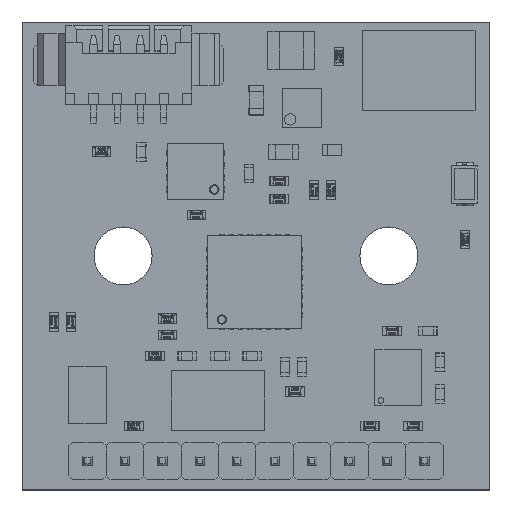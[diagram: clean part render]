
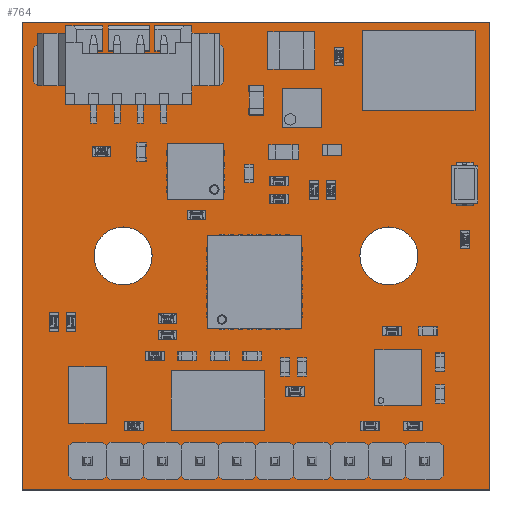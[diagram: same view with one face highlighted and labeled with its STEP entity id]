
A CAD part, top view. The second image highlights one B-rep face of the part: STEP entity #764.
In plain terms, the highlighted planar face has unit normal (0, 0, 1).
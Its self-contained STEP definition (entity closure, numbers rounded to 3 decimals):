
#203 = VERTEX_POINT('',#204);
#204 = CARTESIAN_POINT('',(0.,0.,0.));
#210 = EDGE_CURVE('',#203,#211,#213,.T.);
#211 = VERTEX_POINT('',#212);
#212 = CARTESIAN_POINT('',(25.,0.,0.));
#213 = LINE('',#214,#215);
#214 = CARTESIAN_POINT('',(0.,0.,0.));
#215 = VECTOR('',#216,1.);
#216 = DIRECTION('',(1.,0.,0.));
#241 = EDGE_CURVE('',#211,#242,#244,.T.);
#242 = VERTEX_POINT('',#243);
#243 = CARTESIAN_POINT('',(25.,25.,0.));
#244 = LINE('',#245,#246);
#245 = CARTESIAN_POINT('',(25.,0.,0.));
#246 = VECTOR('',#247,1.);
#247 = DIRECTION('',(0.,1.,0.));
#272 = EDGE_CURVE('',#242,#273,#275,.T.);
#273 = VERTEX_POINT('',#274);
#274 = CARTESIAN_POINT('',(0.,25.,0.));
#275 = LINE('',#276,#277);
#276 = CARTESIAN_POINT('',(25.,25.,0.));
#277 = VECTOR('',#278,1.);
#278 = DIRECTION('',(-1.,0.,0.));
#303 = EDGE_CURVE('',#273,#203,#304,.T.);
#304 = LINE('',#305,#306);
#305 = CARTESIAN_POINT('',(0.,25.,0.));
#306 = VECTOR('',#307,1.);
#307 = DIRECTION('',(0.,-1.,0.));
#327 = VERTEX_POINT('',#328);
#328 = CARTESIAN_POINT('',(3.95,1.55,0.));
#334 = EDGE_CURVE('',#327,#327,#335,.T.);
#335 = CIRCLE('',#336,0.45);
#336 = AXIS2_PLACEMENT_3D('',#337,#338,#339);
#337 = CARTESIAN_POINT('',(3.5,1.55,0.));
#338 = DIRECTION('',(0.,0.,1.));
#339 = DIRECTION('',(1.,0.,0.));
#360 = VERTEX_POINT('',#361);
#361 = CARTESIAN_POINT('',(7.95,1.55,0.));
#367 = EDGE_CURVE('',#360,#360,#368,.T.);
#368 = CIRCLE('',#369,0.45);
#369 = AXIS2_PLACEMENT_3D('',#370,#371,#372);
#370 = CARTESIAN_POINT('',(7.5,1.55,0.));
#371 = DIRECTION('',(0.,0.,1.));
#372 = DIRECTION('',(1.,0.,0.));
#393 = VERTEX_POINT('',#394);
#394 = CARTESIAN_POINT('',(5.95,1.55,0.));
#400 = EDGE_CURVE('',#393,#393,#401,.T.);
#401 = CIRCLE('',#402,0.45);
#402 = AXIS2_PLACEMENT_3D('',#403,#404,#405);
#403 = CARTESIAN_POINT('',(5.5,1.55,0.));
#404 = DIRECTION('',(0.,0.,1.));
#405 = DIRECTION('',(1.,0.,0.));
#426 = VERTEX_POINT('',#427);
#427 = CARTESIAN_POINT('',(6.95,12.5,0.));
#433 = EDGE_CURVE('',#426,#426,#434,.T.);
#434 = CIRCLE('',#435,1.55);
#435 = AXIS2_PLACEMENT_3D('',#436,#437,#438);
#436 = CARTESIAN_POINT('',(5.4,12.5,0.));
#437 = DIRECTION('',(0.,0.,1.));
#438 = DIRECTION('',(1.,0.,0.));
#459 = VERTEX_POINT('',#460);
#460 = CARTESIAN_POINT('',(11.95,1.55,0.));
#466 = EDGE_CURVE('',#459,#459,#467,.T.);
#467 = CIRCLE('',#468,0.45);
#468 = AXIS2_PLACEMENT_3D('',#469,#470,#471);
#469 = CARTESIAN_POINT('',(11.5,1.55,0.));
#470 = DIRECTION('',(0.,0.,1.));
#471 = DIRECTION('',(1.,0.,0.));
#492 = VERTEX_POINT('',#493);
#493 = CARTESIAN_POINT('',(9.95,1.55,0.));
#499 = EDGE_CURVE('',#492,#492,#500,.T.);
#500 = CIRCLE('',#501,0.45);
#501 = AXIS2_PLACEMENT_3D('',#502,#503,#504);
#502 = CARTESIAN_POINT('',(9.5,1.55,0.));
#503 = DIRECTION('',(0.,0.,1.));
#504 = DIRECTION('',(1.,0.,0.));
#525 = VERTEX_POINT('',#526);
#526 = CARTESIAN_POINT('',(13.95,1.55,0.));
#532 = EDGE_CURVE('',#525,#525,#533,.T.);
#533 = CIRCLE('',#534,0.45);
#534 = AXIS2_PLACEMENT_3D('',#535,#536,#537);
#535 = CARTESIAN_POINT('',(13.5,1.55,0.));
#536 = DIRECTION('',(0.,0.,1.));
#537 = DIRECTION('',(1.,0.,0.));
#558 = VERTEX_POINT('',#559);
#559 = CARTESIAN_POINT('',(17.95,1.55,0.));
#565 = EDGE_CURVE('',#558,#558,#566,.T.);
#566 = CIRCLE('',#567,0.45);
#567 = AXIS2_PLACEMENT_3D('',#568,#569,#570);
#568 = CARTESIAN_POINT('',(17.5,1.55,0.));
#569 = DIRECTION('',(0.,0.,1.));
#570 = DIRECTION('',(1.,0.,0.));
#591 = VERTEX_POINT('',#592);
#592 = CARTESIAN_POINT('',(15.95,1.55,0.));
#598 = EDGE_CURVE('',#591,#591,#599,.T.);
#599 = CIRCLE('',#600,0.45);
#600 = AXIS2_PLACEMENT_3D('',#601,#602,#603);
#601 = CARTESIAN_POINT('',(15.5,1.55,0.));
#602 = DIRECTION('',(0.,0.,1.));
#603 = DIRECTION('',(1.,0.,0.));
#624 = VERTEX_POINT('',#625);
#625 = CARTESIAN_POINT('',(19.95,1.55,0.));
#631 = EDGE_CURVE('',#624,#624,#632,.T.);
#632 = CIRCLE('',#633,0.45);
#633 = AXIS2_PLACEMENT_3D('',#634,#635,#636);
#634 = CARTESIAN_POINT('',(19.5,1.55,0.));
#635 = DIRECTION('',(0.,0.,1.));
#636 = DIRECTION('',(1.,0.,0.));
#657 = VERTEX_POINT('',#658);
#658 = CARTESIAN_POINT('',(21.95,1.55,0.));
#664 = EDGE_CURVE('',#657,#657,#665,.T.);
#665 = CIRCLE('',#666,0.45);
#666 = AXIS2_PLACEMENT_3D('',#667,#668,#669);
#667 = CARTESIAN_POINT('',(21.5,1.55,0.));
#668 = DIRECTION('',(0.,0.,1.));
#669 = DIRECTION('',(1.,0.,0.));
#690 = VERTEX_POINT('',#691);
#691 = CARTESIAN_POINT('',(21.15,12.5,0.));
#697 = EDGE_CURVE('',#690,#690,#698,.T.);
#698 = CIRCLE('',#699,1.55);
#699 = AXIS2_PLACEMENT_3D('',#700,#701,#702);
#700 = CARTESIAN_POINT('',(19.6,12.5,0.));
#701 = DIRECTION('',(0.,0.,1.));
#702 = DIRECTION('',(1.,0.,0.));
#764 = ADVANCED_FACE('',(#765,#771,#774,#777,#780,#783,#786,#789,#792,
    #795,#798,#801,#804),#807,.F.);
#765 = FACE_BOUND('',#766,.T.);
#766 = EDGE_LOOP('',(#767,#768,#769,#770));
#767 = ORIENTED_EDGE('',*,*,#210,.T.);
#768 = ORIENTED_EDGE('',*,*,#241,.T.);
#769 = ORIENTED_EDGE('',*,*,#272,.T.);
#770 = ORIENTED_EDGE('',*,*,#303,.T.);
#771 = FACE_BOUND('',#772,.F.);
#772 = EDGE_LOOP('',(#773));
#773 = ORIENTED_EDGE('',*,*,#334,.T.);
#774 = FACE_BOUND('',#775,.F.);
#775 = EDGE_LOOP('',(#776));
#776 = ORIENTED_EDGE('',*,*,#367,.T.);
#777 = FACE_BOUND('',#778,.F.);
#778 = EDGE_LOOP('',(#779));
#779 = ORIENTED_EDGE('',*,*,#400,.T.);
#780 = FACE_BOUND('',#781,.F.);
#781 = EDGE_LOOP('',(#782));
#782 = ORIENTED_EDGE('',*,*,#433,.T.);
#783 = FACE_BOUND('',#784,.F.);
#784 = EDGE_LOOP('',(#785));
#785 = ORIENTED_EDGE('',*,*,#466,.T.);
#786 = FACE_BOUND('',#787,.F.);
#787 = EDGE_LOOP('',(#788));
#788 = ORIENTED_EDGE('',*,*,#499,.T.);
#789 = FACE_BOUND('',#790,.F.);
#790 = EDGE_LOOP('',(#791));
#791 = ORIENTED_EDGE('',*,*,#532,.T.);
#792 = FACE_BOUND('',#793,.F.);
#793 = EDGE_LOOP('',(#794));
#794 = ORIENTED_EDGE('',*,*,#565,.T.);
#795 = FACE_BOUND('',#796,.F.);
#796 = EDGE_LOOP('',(#797));
#797 = ORIENTED_EDGE('',*,*,#598,.T.);
#798 = FACE_BOUND('',#799,.F.);
#799 = EDGE_LOOP('',(#800));
#800 = ORIENTED_EDGE('',*,*,#631,.T.);
#801 = FACE_BOUND('',#802,.F.);
#802 = EDGE_LOOP('',(#803));
#803 = ORIENTED_EDGE('',*,*,#664,.T.);
#804 = FACE_BOUND('',#805,.F.);
#805 = EDGE_LOOP('',(#806));
#806 = ORIENTED_EDGE('',*,*,#697,.T.);
#807 = PLANE('',#808);
#808 = AXIS2_PLACEMENT_3D('',#809,#810,#811);
#809 = CARTESIAN_POINT('',(0.,0.,0.));
#810 = DIRECTION('',(0.,0.,-1.));
#811 = DIRECTION('',(-1.,0.,0.));
